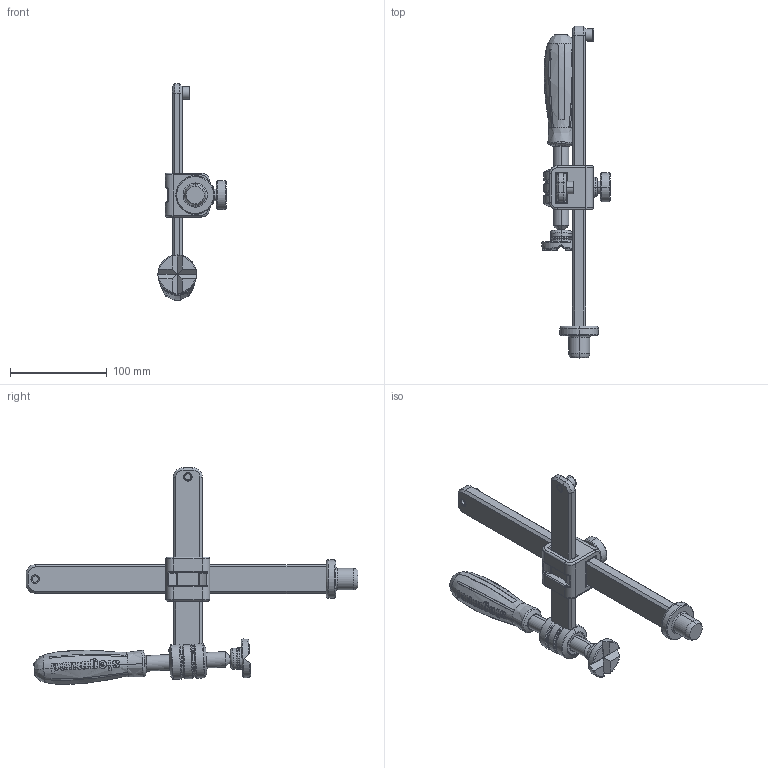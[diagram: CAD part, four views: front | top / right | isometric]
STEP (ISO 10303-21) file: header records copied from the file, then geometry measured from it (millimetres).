
FILE_DESCRIPTION (( 'STEP AP203' ), '1' );
FILE_NAME ('220610.1.STEP', '2020-03-03T10:25:57', ( '' ), ( '' ), 'SwSTEP 2.0', 'SolidWorks 2019', '' );
FILE_SCHEMA (( 'CONFIG_CONTROL_DESIGN' ));
Length unit declared in the file: millimetre
Products named in the file (20): 220657.1 Prisma f黵 Schraubzwingen; 220632 Vertikalstrebe 310_Fl30x14_Standard<Wie bearbeitet>; 280617 Gusskreuz f黵 280610 Fl30x14; O-Ring 18x2 DIN 3771; 280662 Teller^280662 Handrad f黵 Gusskreuz; O-Ring 9x2 DIN 3771; 220610.1; DIN 912 M8 x 10 --- 10C- br黱iert_DIN 912 M8 x 10 --- 10C- br乶iert; ISO 4762 - M8 x 10 - schwarz_0; 220618 Gewindebuchse Tr 16x4; 220634 Gewindespindel mit Handgriff 100_Tr16x4; DIN 913 - M12 x 25-C- br黱iert_DIN 913 - M12 x 25-C- br乶iert; 280662 Handrad f黵 Gusskreuz_280662; 220632 Vertikalstrebe 310_Fl30x14; 289104_Griff mit Logo; 220631 Horizontalstrebe 200_0; 220634 Gewindespindel mit Handgriff 100_Tr16x4_2
Assembly tree (21 placements, depth 3):
  220610.1
    220632 Vertikalstrebe 310_Fl30x14
      220632 Vertikalstrebe 310_Fl30x14_Standard<Wie bearbeitet>
      DIN 912 M8 x 10 --- 10C- br黱iert_DIN 912 M8 x 10 --- 10C- br乶iert
    220631 Horizontalstrebe 200_0
      220631 Horizontalstrebe 200_0
      ISO 4762 - M8 x 10 - schwarz_0
    220634 Gewindespindel mit Handgriff 100_Tr16x4
      220634 Gewindespindel mit Handgriff 100_Tr16x4_2
      289104_Griff mit Logo
    220657.1 Prisma f黵 Schraubzwingen
      220657.1 Prisma f黵 Schraubzwingen
      O-Ring 9x2 DIN 3771
      O-Ring 18x2 DIN 3771
    280617 Gusskreuz f黵 280610 Fl30x14
    280662 Handrad f黵 Gusskreuz_280662
      DIN 913 - M12 x 25-C- br黱iert_DIN 913 - M12 x 25-C- br乶iert
      280662 Teller^280662 Handrad f黵 Gusskreuz
    220618 Gewindebuchse Tr 16x4
      220618 Gewindebuchse Tr 16x4
      O-Ring 18x2 DIN 3771  x2
Bounding box: 70.6 x 343 x 223.76 mm (x, y, z)
Volume: 403435 mm3; surface area: 127678.8 mm2
Topology: 16 solids, 16 shells, 1393 faces, 3912 edges, 2528 vertices
Faces by surface type: bspline 510, plane 498, cylinder 204, torus 109, cone 68, sphere 4
Entity records: 63092 total; most frequent: CARTESIAN_POINT 29007, ORIENTED_EDGE 7774, DIRECTION 5131, EDGE_CURVE 3887, VERTEX_POINT 2517, AXIS2_PLACEMENT_3D 1920, B_SPLINE_CURVE_WITH_KNOTS 1549, EDGE_LOOP 1434
